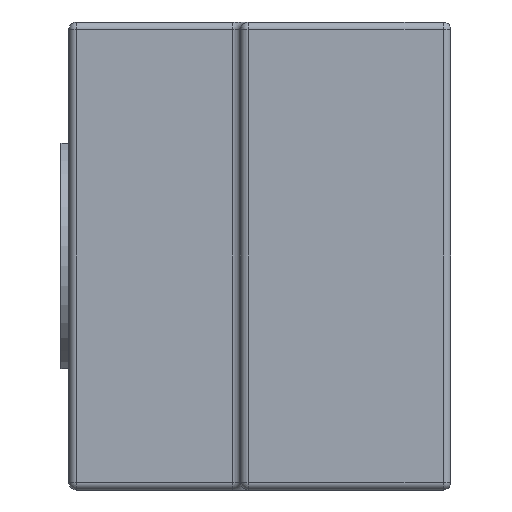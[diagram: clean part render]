
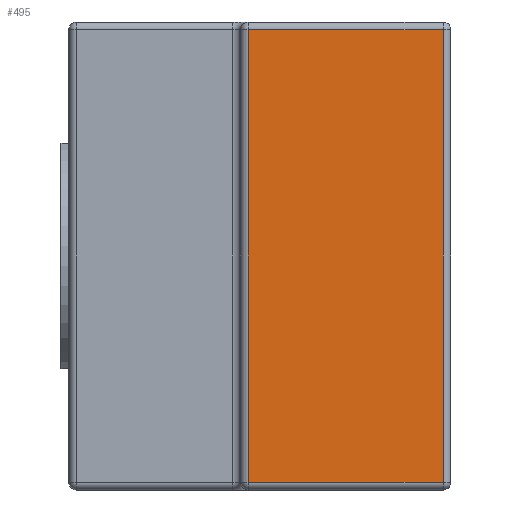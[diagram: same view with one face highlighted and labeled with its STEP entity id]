
A CAD part, front view. The second image highlights one B-rep face of the part: STEP entity #495.
In plain terms, the highlighted planar face has unit normal (0, -1, 0).
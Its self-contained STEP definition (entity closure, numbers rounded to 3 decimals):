
#109 = CARTESIAN_POINT ( 'NONE',  ( 13., 0., 0.5 ) ) ;
#190 = VECTOR ( 'NONE', #643, 1000. ) ;
#201 = DIRECTION ( 'NONE',  ( -1., 0., 0. ) ) ;
#218 = VECTOR ( 'NONE', #201, 1000. ) ;
#265 = LINE ( 'NONE', #1426, #190 ) ;
#391 = EDGE_CURVE ( 'NONE', #763, #1499, #921, .T. ) ;
#396 = PLANE ( 'NONE',  #588 ) ;
#403 = VERTEX_POINT ( 'NONE', #497 ) ;
#409 = EDGE_CURVE ( 'NONE', #1670, #403, #265, .T. ) ;
#435 = VECTOR ( 'NONE', #1163, 1000. ) ;
#495 = ADVANCED_FACE ( 'NONE', ( #1043 ), #396, .F. ) ;
#497 = CARTESIAN_POINT ( 'NONE',  ( 0.5, 0., 0.5 ) ) ;
#543 = DIRECTION ( 'NONE',  ( 1., 0., 0. ) ) ;
#588 = AXIS2_PLACEMENT_3D ( 'NONE', #897, #1189, #932 ) ;
#595 = LINE ( 'NONE', #987, #218 ) ;
#629 = CARTESIAN_POINT ( 'NONE',  ( 13., 0., 29.5 ) ) ;
#643 = DIRECTION ( 'NONE',  ( 0., 0., -1. ) ) ;
#659 = ORIENTED_EDGE ( 'NONE', *, *, #409, .T. ) ;
#704 = LINE ( 'NONE', #1099, #786 ) ;
#763 = VERTEX_POINT ( 'NONE', #109 ) ;
#786 = VECTOR ( 'NONE', #543, 1000. ) ;
#847 = EDGE_LOOP ( 'NONE', ( #1462, #659, #1601, #1667 ) ) ;
#897 = CARTESIAN_POINT ( 'NONE',  ( 0., 0., 30. ) ) ;
#907 = CARTESIAN_POINT ( 'NONE',  ( 0.5, 0., 29.5 ) ) ;
#921 = LINE ( 'NONE', #1049, #435 ) ;
#932 = DIRECTION ( 'NONE',  ( 0., 0., 1. ) ) ;
#937 = EDGE_CURVE ( 'NONE', #1499, #1670, #595, .T. ) ;
#987 = CARTESIAN_POINT ( 'NONE',  ( 0., 0., 29.5 ) ) ;
#1043 = FACE_OUTER_BOUND ( 'NONE', #847, .T. ) ;
#1049 = CARTESIAN_POINT ( 'NONE',  ( 13., 0., 30. ) ) ;
#1099 = CARTESIAN_POINT ( 'NONE',  ( 13.5, 0., 0.5 ) ) ;
#1142 = EDGE_CURVE ( 'NONE', #403, #763, #704, .T. ) ;
#1163 = DIRECTION ( 'NONE',  ( 0., 0., 1. ) ) ;
#1189 = DIRECTION ( 'NONE',  ( 0., 1., 0. ) ) ;
#1426 = CARTESIAN_POINT ( 'NONE',  ( 0.5, 0., 30. ) ) ;
#1462 = ORIENTED_EDGE ( 'NONE', *, *, #937, .T. ) ;
#1499 = VERTEX_POINT ( 'NONE', #629 ) ;
#1601 = ORIENTED_EDGE ( 'NONE', *, *, #1142, .T. ) ;
#1667 = ORIENTED_EDGE ( 'NONE', *, *, #391, .T. ) ;
#1670 = VERTEX_POINT ( 'NONE', #907 ) ;
